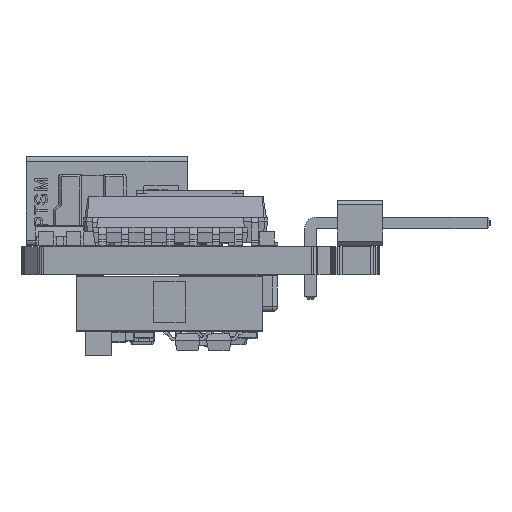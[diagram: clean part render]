
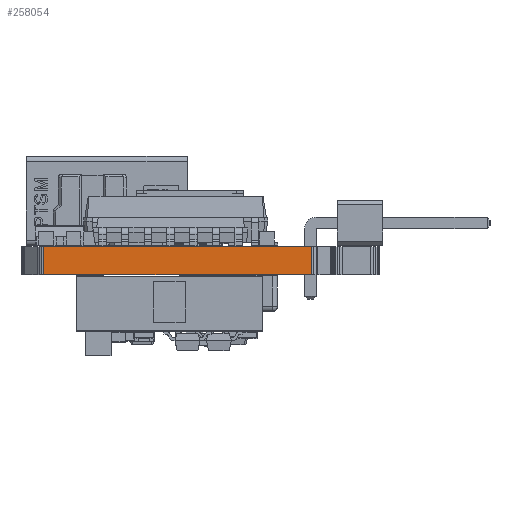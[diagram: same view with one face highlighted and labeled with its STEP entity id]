
A CAD part, left-side view. The second image highlights one B-rep face of the part: STEP entity #258054.
In plain terms, the highlighted planar face has unit normal (-1, 0, 0).
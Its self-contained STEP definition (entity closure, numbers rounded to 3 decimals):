
#250785 = PLANE('',#250786);
#250786 = AXIS2_PLACEMENT_3D('',#250787,#250788,#250789);
#250787 = CARTESIAN_POINT('',(-0.063,0.118,1.58));
#250788 = DIRECTION('',(-0.,-0.,-1.));
#250789 = DIRECTION('',(-1.,0.,0.));
#250839 = PLANE('',#250840);
#250840 = AXIS2_PLACEMENT_3D('',#250841,#250842,#250843);
#250841 = CARTESIAN_POINT('',(-0.063,0.118,0.));
#250842 = DIRECTION('',(-0.,-0.,-1.));
#250843 = DIRECTION('',(-1.,0.,0.));
#253104 = VERTEX_POINT('',#253105);
#253105 = CARTESIAN_POINT('',(-33.67,-6.193,0.));
#253119 = PLANE('',#253120);
#253120 = AXIS2_PLACEMENT_3D('',#253121,#253122,#253123);
#253121 = CARTESIAN_POINT('',(-33.653,-6.322,0.));
#253122 = DIRECTION('',(-0.991,-0.131,0.));
#253123 = DIRECTION('',(-0.131,0.991,0.));
#253131 = EDGE_CURVE('',#253104,#253132,#253134,.T.);
#253132 = VERTEX_POINT('',#253133);
#253133 = CARTESIAN_POINT('',(-33.67,8.793,0.));
#253134 = SURFACE_CURVE('',#253135,(#253139,#253146),.PCURVE_S1.);
#253135 = LINE('',#253136,#253137);
#253136 = CARTESIAN_POINT('',(-33.67,-6.193,0.));
#253137 = VECTOR('',#253138,1.);
#253138 = DIRECTION('',(0.,1.,0.));
#253139 = PCURVE('',#250839,#253140);
#253140 = DEFINITIONAL_REPRESENTATION('',(#253141),#253145);
#253141 = LINE('',#253142,#253143);
#253142 = CARTESIAN_POINT('',(33.607,-6.311));
#253143 = VECTOR('',#253144,1.);
#253144 = DIRECTION('',(0.,1.));
#253145 = ( GEOMETRIC_REPRESENTATION_CONTEXT(2) 
PARAMETRIC_REPRESENTATION_CONTEXT() REPRESENTATION_CONTEXT('2D SPACE',''
  ) );
#253146 = PCURVE('',#253147,#253152);
#253147 = PLANE('',#253148);
#253148 = AXIS2_PLACEMENT_3D('',#253149,#253150,#253151);
#253149 = CARTESIAN_POINT('',(-33.67,-6.193,0.));
#253150 = DIRECTION('',(-1.,0.,0.));
#253151 = DIRECTION('',(0.,1.,0.));
#253152 = DEFINITIONAL_REPRESENTATION('',(#253153),#253157);
#253153 = LINE('',#253154,#253155);
#253154 = CARTESIAN_POINT('',(0.,0.));
#253155 = VECTOR('',#253156,1.);
#253156 = DIRECTION('',(1.,0.));
#253157 = ( GEOMETRIC_REPRESENTATION_CONTEXT(2) 
PARAMETRIC_REPRESENTATION_CONTEXT() REPRESENTATION_CONTEXT('2D SPACE',''
  ) );
#253175 = PLANE('',#253176);
#253176 = AXIS2_PLACEMENT_3D('',#253177,#253178,#253179);
#253177 = CARTESIAN_POINT('',(-33.67,8.793,0.));
#253178 = DIRECTION('',(-0.991,0.131,0.));
#253179 = DIRECTION('',(0.131,0.991,0.));
#256349 = VERTEX_POINT('',#256350);
#256350 = CARTESIAN_POINT('',(-33.67,-6.193,1.58));
#256371 = EDGE_CURVE('',#256349,#256372,#256374,.T.);
#256372 = VERTEX_POINT('',#256373);
#256373 = CARTESIAN_POINT('',(-33.67,8.793,1.58));
#256374 = SURFACE_CURVE('',#256375,(#256379,#256386),.PCURVE_S1.);
#256375 = LINE('',#256376,#256377);
#256376 = CARTESIAN_POINT('',(-33.67,-6.193,1.58));
#256377 = VECTOR('',#256378,1.);
#256378 = DIRECTION('',(0.,1.,0.));
#256379 = PCURVE('',#250785,#256380);
#256380 = DEFINITIONAL_REPRESENTATION('',(#256381),#256385);
#256381 = LINE('',#256382,#256383);
#256382 = CARTESIAN_POINT('',(33.607,-6.311));
#256383 = VECTOR('',#256384,1.);
#256384 = DIRECTION('',(0.,1.));
#256385 = ( GEOMETRIC_REPRESENTATION_CONTEXT(2) 
PARAMETRIC_REPRESENTATION_CONTEXT() REPRESENTATION_CONTEXT('2D SPACE',''
  ) );
#256386 = PCURVE('',#253147,#256387);
#256387 = DEFINITIONAL_REPRESENTATION('',(#256388),#256392);
#256388 = LINE('',#256389,#256390);
#256389 = CARTESIAN_POINT('',(0.,-1.58));
#256390 = VECTOR('',#256391,1.);
#256391 = DIRECTION('',(1.,0.));
#256392 = ( GEOMETRIC_REPRESENTATION_CONTEXT(2) 
PARAMETRIC_REPRESENTATION_CONTEXT() REPRESENTATION_CONTEXT('2D SPACE',''
  ) );
#258004 = EDGE_CURVE('',#253132,#256372,#258005,.T.);
#258005 = SURFACE_CURVE('',#258006,(#258010,#258017),.PCURVE_S1.);
#258006 = LINE('',#258007,#258008);
#258007 = CARTESIAN_POINT('',(-33.67,8.793,0.));
#258008 = VECTOR('',#258009,1.);
#258009 = DIRECTION('',(0.,0.,1.));
#258010 = PCURVE('',#253175,#258011);
#258011 = DEFINITIONAL_REPRESENTATION('',(#258012),#258016);
#258012 = LINE('',#258013,#258014);
#258013 = CARTESIAN_POINT('',(0.,0.));
#258014 = VECTOR('',#258015,1.);
#258015 = DIRECTION('',(0.,-1.));
#258016 = ( GEOMETRIC_REPRESENTATION_CONTEXT(2) 
PARAMETRIC_REPRESENTATION_CONTEXT() REPRESENTATION_CONTEXT('2D SPACE',''
  ) );
#258017 = PCURVE('',#253147,#258018);
#258018 = DEFINITIONAL_REPRESENTATION('',(#258019),#258023);
#258019 = LINE('',#258020,#258021);
#258020 = CARTESIAN_POINT('',(14.986,0.));
#258021 = VECTOR('',#258022,1.);
#258022 = DIRECTION('',(0.,-1.));
#258023 = ( GEOMETRIC_REPRESENTATION_CONTEXT(2) 
PARAMETRIC_REPRESENTATION_CONTEXT() REPRESENTATION_CONTEXT('2D SPACE',''
  ) );
#258054 = ADVANCED_FACE('',(#258055),#253147,.T.);
#258055 = FACE_BOUND('',#258056,.T.);
#258056 = EDGE_LOOP('',(#258057,#258078,#258079,#258080));
#258057 = ORIENTED_EDGE('',*,*,#258058,.T.);
#258058 = EDGE_CURVE('',#253104,#256349,#258059,.T.);
#258059 = SURFACE_CURVE('',#258060,(#258064,#258071),.PCURVE_S1.);
#258060 = LINE('',#258061,#258062);
#258061 = CARTESIAN_POINT('',(-33.67,-6.193,0.));
#258062 = VECTOR('',#258063,1.);
#258063 = DIRECTION('',(0.,0.,1.));
#258064 = PCURVE('',#253147,#258065);
#258065 = DEFINITIONAL_REPRESENTATION('',(#258066),#258070);
#258066 = LINE('',#258067,#258068);
#258067 = CARTESIAN_POINT('',(0.,0.));
#258068 = VECTOR('',#258069,1.);
#258069 = DIRECTION('',(0.,-1.));
#258070 = ( GEOMETRIC_REPRESENTATION_CONTEXT(2) 
PARAMETRIC_REPRESENTATION_CONTEXT() REPRESENTATION_CONTEXT('2D SPACE',''
  ) );
#258071 = PCURVE('',#253119,#258072);
#258072 = DEFINITIONAL_REPRESENTATION('',(#258073),#258077);
#258073 = LINE('',#258074,#258075);
#258074 = CARTESIAN_POINT('',(0.131,0.));
#258075 = VECTOR('',#258076,1.);
#258076 = DIRECTION('',(0.,-1.));
#258077 = ( GEOMETRIC_REPRESENTATION_CONTEXT(2) 
PARAMETRIC_REPRESENTATION_CONTEXT() REPRESENTATION_CONTEXT('2D SPACE',''
  ) );
#258078 = ORIENTED_EDGE('',*,*,#256371,.T.);
#258079 = ORIENTED_EDGE('',*,*,#258004,.F.);
#258080 = ORIENTED_EDGE('',*,*,#253131,.F.);
